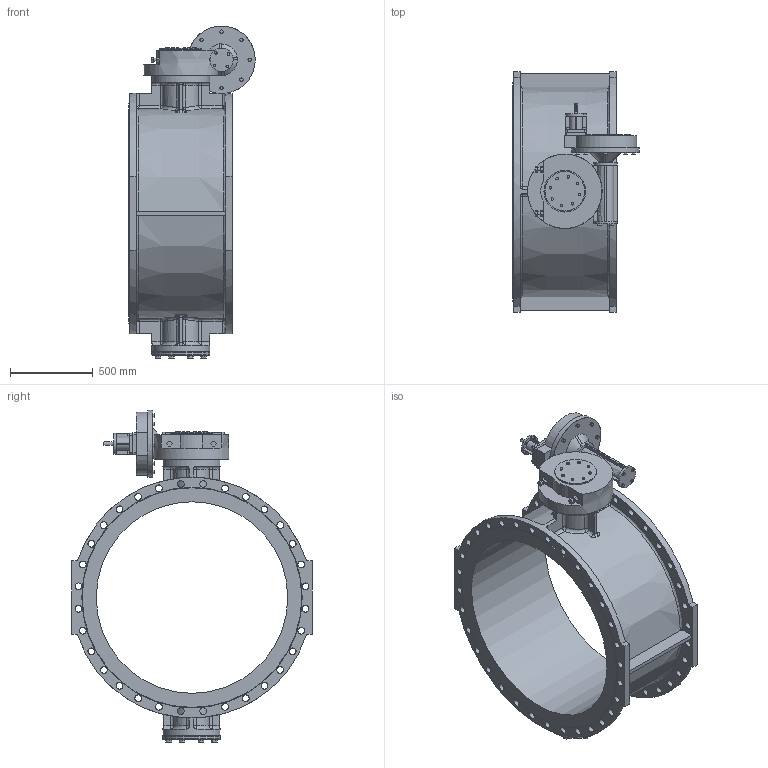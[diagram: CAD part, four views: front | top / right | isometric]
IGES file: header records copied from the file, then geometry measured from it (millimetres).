
Start section: SolidWorks IGES file using analytic representation for surfaces
Global section: file name: \\avksan2\techshare\PBM outline export from Enovia\O_756_1_DN1200_0XX020X_REV01.igs; native system: SolidWorks 2019; preprocessor: SolidWorks 2019; author: pbm; date: 200819.110312; units: millimetre
Bounding box: 765 x 1455 x 2007.2 mm (x, y, z)
Surface area: 8972766.2 mm2 (no closed solid volume)
Topology: 0 solids, 0 shells, 710 faces, 4014 edges, 3866 vertices
Faces by surface type: bspline 416, revolution 294
